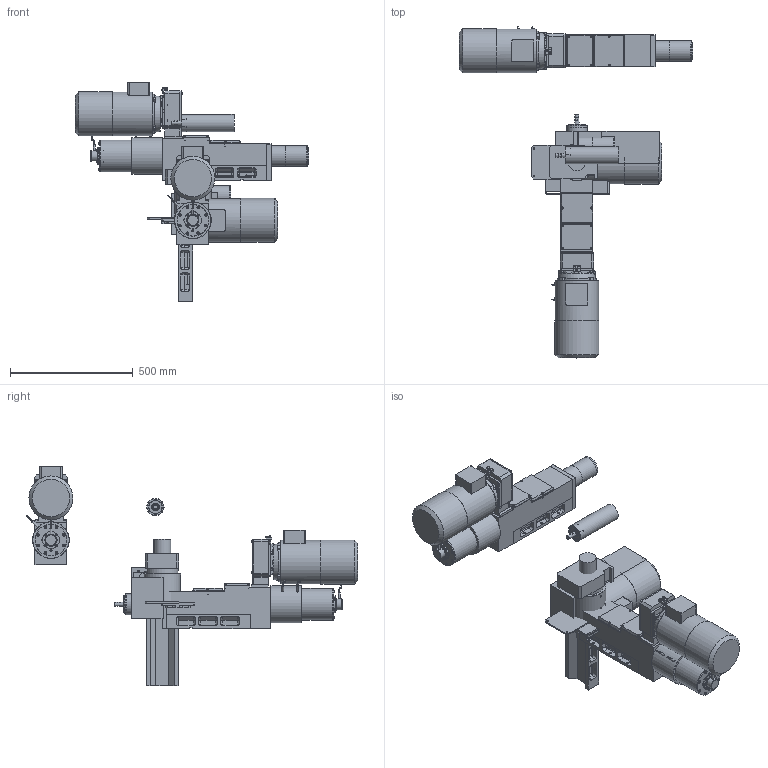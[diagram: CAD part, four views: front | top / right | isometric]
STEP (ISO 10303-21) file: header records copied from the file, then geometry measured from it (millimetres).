
FILE_DESCRIPTION( ( 'STEP AP203' ), '1' );
FILE_NAME( 'C:/Documents and Settings/Saverio/Desktop/disegni ironcad/unità serie 2/MC216A (ex MC220A)/MC 216 A_A01_P.stp', '2014-03-25T10:59:39', ( ' ' ), ( ' ' ), 'XStep 1.0', ' ', ' ' );
FILE_SCHEMA( ( 'CONFIG_CONTROL_DESIGN' ) );
Length unit declared in the file: metre
Products named in the file (55): Assem1; Assem2; Assem3; 1; 2; 3; 4; 5; 6; 7; 8; 9; 10; 11; 12; 13; 14; 15; 16; 17; 18; 19; 20; 21; 22; 23; 24; 25; 26; 27; 28; 29; 30; 31; 32; 33; 34; 35; 36; 37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
Bounding box: 950 x 1350.52 x 894.21 mm (x, y, z)
Volume: 61049659.3 mm3; surface area: 4642010.8 mm2
Topology: 156 solids, 159 shells, 3495 faces, 7851 edges, 4800 vertices
Faces by surface type: plane 1851, cylinder 897, cone 492, bspline 150, sphere 60, torus 45
Full cylindrical faces by diameter (mm): 3 x3, 5 x60, 5.5 x57, 6 x24, 6.5 x42, 6.637 x15, 6.647 x12, 6.75 x18, 7 x3, 8 x9, 8.385 x3, 8.5 x48, 8.75 x18, 8.758 x3, 18 x9, 20 x3, 24 x3, 30 x6, 31.2 x3, 44 x3, 44.2 x3, 50 x6, 50.5 x3, 52 x3, 53 x3, 54 x6, 70 x9, 74 x3, 76 x3, 80 x6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
Entity records: 35952 total; most frequent: CARTESIAN_POINT 9313, DIRECTION 5057, ORIENTED_EDGE 4392, EDGE_CURVE 2196, AXIS2_PLACEMENT_3D 1912, EDGE_LOOP 1659, VERTEX_POINT 1533, FACE_OUTER_BOUND 1329
